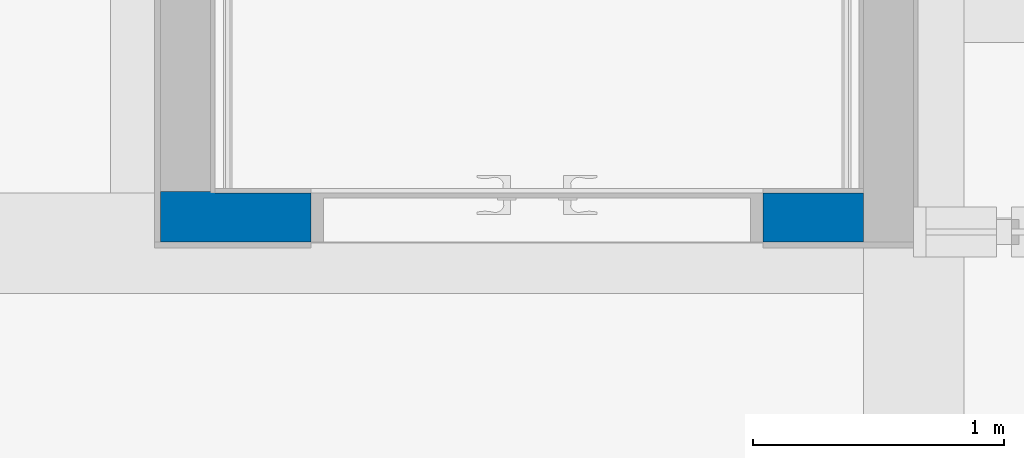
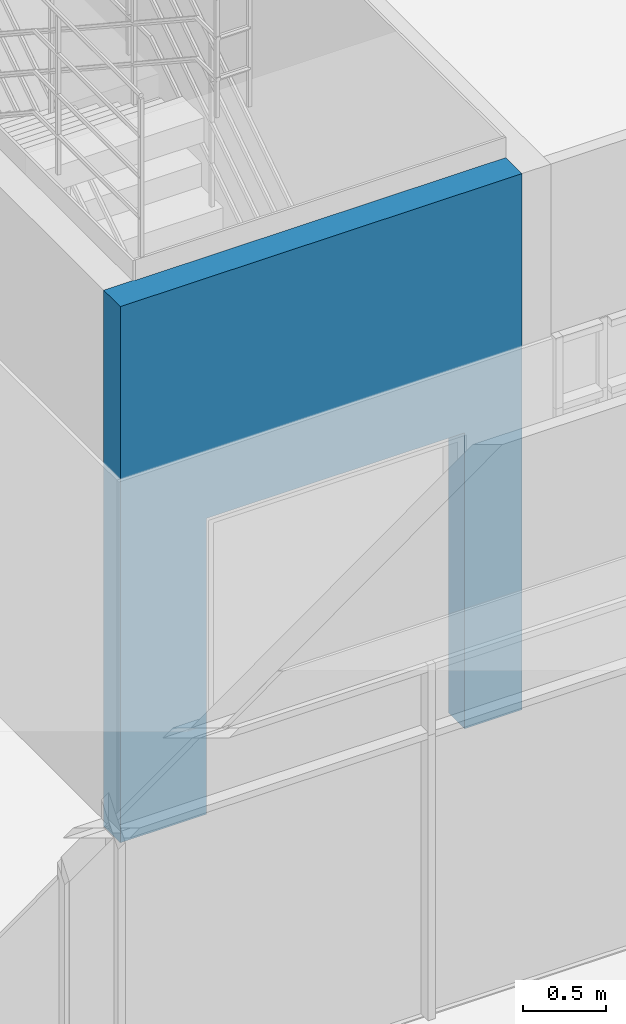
# One storey, part 61 of 76: 1 wall, 1 opening.
"""IFC2X3 building model written with IfcOpenShell, lengths in millimetres."""

from ifc_helpers import new_model, entity, si_unit, converted_unit, derived_unit, direction, frame, frame_2d, origin, place, context, subcontext, project, spatial, rectangle, extrude, faceted_brep, material, layer, layer_set, type_object, element, save


model = new_model("IFC2X3")

# Units and contexts
model_context = context("Model", 3, precision=0.01, world=origin(), true_north=direction((6.123031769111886e-17, 1.0)))
body_context = subcontext(model_context, "Body", "Model", "MODEL_VIEW")
ifc_project = project(units=[si_unit("LENGTHUNIT", "METRE", prefix="MILLI"), si_unit("AREAUNIT", "SQUARE_METRE"), si_unit("VOLUMEUNIT", "CUBIC_METRE"), converted_unit("PLANEANGLEUNIT", "DEGREE", entity("IfcRatioMeasure", 0.017453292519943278), si_unit("PLANEANGLEUNIT", "RADIAN"), dimensions=[0, 0, 0, 0, 0, 0, 0]), si_unit("MASSUNIT", "GRAM", prefix="KILO"), derived_unit("MASSDENSITYUNIT", [(si_unit("MASSUNIT", "GRAM", prefix="KILO"), 1), (si_unit("LENGTHUNIT", "METRE"), -3)]), derived_unit("MOMENTOFINERTIAUNIT", [(si_unit("LENGTHUNIT", "METRE"), 4)]), si_unit("TIMEUNIT", "SECOND"), si_unit("FREQUENCYUNIT", "HERTZ"), si_unit("THERMODYNAMICTEMPERATUREUNIT", "DEGREE_CELSIUS"), derived_unit("THERMALTRANSMITTANCEUNIT", [(si_unit("MASSUNIT", "GRAM", prefix="KILO"), 1), (si_unit("THERMODYNAMICTEMPERATUREUNIT", "KELVIN"), -1), (si_unit("TIMEUNIT", "SECOND"), -3)]), derived_unit("VOLUMETRICFLOWRATEUNIT", [(si_unit("LENGTHUNIT", "METRE"), 3), (si_unit("TIMEUNIT", "SECOND"), -1)]), derived_unit("MASSFLOWRATEUNIT", [(si_unit("MASSUNIT", "GRAM", prefix="KILO"), 1), (si_unit("TIMEUNIT", "SECOND"), -1)]), derived_unit("ROTATIONALFREQUENCYUNIT", [(si_unit("TIMEUNIT", "SECOND"), -1)]), si_unit("ELECTRICCURRENTUNIT", "AMPERE"), si_unit("ELECTRICVOLTAGEUNIT", "VOLT"), si_unit("POWERUNIT", "WATT"), si_unit("FORCEUNIT", "NEWTON", prefix="KILO"), si_unit("ILLUMINANCEUNIT", "LUX"), si_unit("LUMINOUSFLUXUNIT", "LUMEN"), si_unit("LUMINOUSINTENSITYUNIT", "CANDELA"), derived_unit("USERDEFINED", [(si_unit("MASSUNIT", "GRAM", prefix="KILO"), -1), (si_unit("LENGTHUNIT", "METRE"), -2), (si_unit("TIMEUNIT", "SECOND"), 3), (si_unit("LUMINOUSFLUXUNIT", "LUMEN"), 1)]), derived_unit("SOUNDPOWERUNIT", [(si_unit("MASSUNIT", "GRAM", prefix="KILO"), 1), (si_unit("LENGTHUNIT", "METRE"), 2), (si_unit("TIMEUNIT", "SECOND"), -3)]), derived_unit("SOUNDPRESSUREUNIT", [(si_unit("MASSUNIT", "GRAM", prefix="KILO"), 1), (si_unit("LENGTHUNIT", "METRE"), -1), (si_unit("TIMEUNIT", "SECOND"), -2)]), derived_unit("LINEARVELOCITYUNIT", [(si_unit("LENGTHUNIT", "METRE"), 1), (si_unit("TIMEUNIT", "SECOND"), -1)]), si_unit("PRESSUREUNIT", "PASCAL"), derived_unit("USERDEFINED", [(si_unit("LENGTHUNIT", "METRE"), -2), (si_unit("MASSUNIT", "GRAM", prefix="KILO"), 1), (si_unit("TIMEUNIT", "SECOND"), -2)]), derived_unit("LINEARFORCEUNIT", [(si_unit("MASSUNIT", "GRAM", prefix="KILO"), 1), (si_unit("LENGTHUNIT", "METRE"), 1), (si_unit("TIMEUNIT", "SECOND"), -2), (si_unit("LENGTHUNIT", "METRE"), -1)]), derived_unit("PLANARFORCEUNIT", [(si_unit("MASSUNIT", "GRAM", prefix="KILO"), 1), (si_unit("LENGTHUNIT", "METRE"), 1), (si_unit("TIMEUNIT", "SECOND"), -2), (si_unit("LENGTHUNIT", "METRE"), -2)])], contexts=[model_context])

# Site, building, storey
site_placement = place(None, frame((-14167.972527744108, -657.2125860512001, 0.0)))
site = spatial("IfcSite", under=ifc_project, at=site_placement, Name="Default", CompositionType="ELEMENT")
building_placement = place(site_placement, origin())
building = spatial("IfcBuilding", under=site, at=building_placement, Name="Sample Building", CompositionType="ELEMENT")
storey_placement = place(building_placement, frame((0.0, 0.0, 9300.0)))
storey = spatial("IfcBuildingStorey", under=building, at=storey_placement, Name="지상 3층", CompositionType="ELEMENT", Elevation=9300.000000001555)

# Wall, opening
ifc_material = material(Name="KBIMS-콘크리트")
ifc_layer = layer(ifc_material, 200.0)
ifc_layer_set = layer_set([ifc_layer], Name="기본 벽:WA111-철근콘크리트구조 벽 200mm_CW1")
wall_type = type_object("IfcWallType", Name="기본 벽:WA111-철근콘크리트구조 벽 200mm_CW1", PredefinedType="STANDARD", material=ifc_layer_set)
wall_placement = place(storey_placement, frame((37967.96379814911, 15662.21224153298, -2.297844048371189e-09)))
wall = element("IfcWall", 1, at=wall_placement, inside=storey, type_object=wall_type, Name="기본 벽:WA111-철근콘크리트구조 벽 200mm_CW1", ObjectType="기본 벽:WA111-철근콘크리트구조 벽 200mm_CW1", context=body_context, shape_type="Brep", body=[
    faceted_brep([(2800.0, -100.0, 3950.0), (0.0, -100.0, 3950.0), (0.0, -100.0, 3700.0), (0.0, -100.0, 80.0), (0.0, -100.0, 0.0), (600.0, -100.0, 0.0), (600.0, -100.0, 2180.0), (2400.0, -100.0, 2180.0), (2400.0, -100.0, 0.0), (2800.0, -100.0, 0.0), (2800.0, 100.0, 3950.0), (2800.0, 100.0, 0.0), (2799.747659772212, 100.0, 0.0), (2799.747659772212, 100.0, 3950.0), (0.0, 100.0, 0.0), (200.0, 100.0, 0.0), (217.7389865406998, 100.0, 0.0), (217.7389865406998, 95.00005360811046, 0.0), (600.0, 95.00006395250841, 0.0), (0.0, 95.0003626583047, 3950.0), (0.0, 100.0, 3950.0), (0.0, 100.0, 80.0), (2799.747659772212, 95.00005360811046, 3950.0), (217.7389865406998, 95.00005360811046, 3950.0), (217.7389865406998, 100.0, 3950.0), (200.0, 100.0, 3950.0), (2400.0, 95.00006395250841, 0.0), (2400.0, 95.00005360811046, 2180.0), (2400.0, 95.00005360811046, 80.0), (600.0, 95.00005360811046, 2180.0), (600.0, 95.00005360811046, 0.0), (600.0, 95.00005360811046, 80.0), (2799.747659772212, 95.00005360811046, 0.0), (2400.0, 95.00005360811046, 0.0)], [[[0, 1, 2, 3, 4, 5, 6, 7, 8, 9]], [[10, 11, 12, 13]], [[4, 14, 15, 16, 17, 18, 5]], [[14, 4, 3, 2, 1, 19, 20, 21]], [[1, 0, 10, 13, 22, 23, 24, 25, 20, 19]], [[26, 8, 7, 27, 28]], [[7, 6, 29, 27]], [[5, 30, 31, 29, 6]], [[9, 11, 10, 0]], [[17, 23, 22, 32, 33, 28, 27, 29, 31, 30]], [[32, 22, 13, 12]], [[23, 17, 16, 24]], [[11, 9, 8, 33, 32, 12]], [[20, 25, 24, 16, 15, 14, 21]]]),
])
opening_placement = place(wall_placement, frame((600.0, -100.0, 80.0)))
element("IfcOpeningElement", 2, at=opening_placement, cuts=wall, Name="DR121-쌍여닫이문(철재, 방화문):DR121-쌍여닫이문(철재, 방화문) 1800x2100mm:1", ObjectType="Opening", context=body_context, shape_type="SweptSolid", body=[
    extrude(rectangle(XDim=2099.999999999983, YDim=1799.9999999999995, at=frame_2d((1049.9999999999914, 899.9999999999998), x_axis=(1.0, 0.0))), frame((0.0, 0.0, 0.0), z_axis=(0.0, 1.0, 0.0), x_axis=(0.0, 0.0, 1.0)), (0.0, 0.0, 1.0), 200.0),
])

save(model, "model.ifc")
